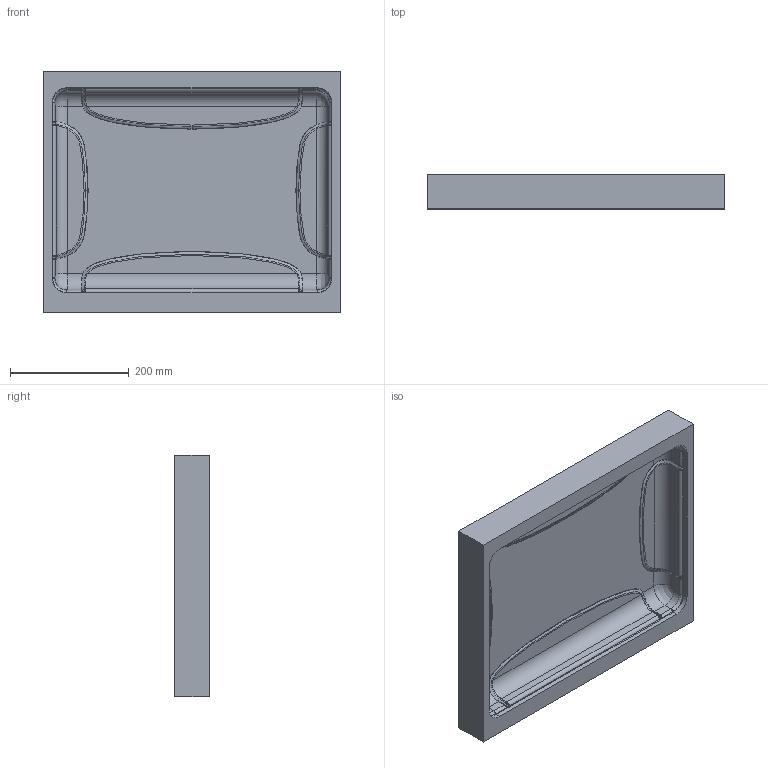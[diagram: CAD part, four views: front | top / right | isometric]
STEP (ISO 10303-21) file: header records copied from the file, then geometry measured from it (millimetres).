
FILE_DESCRIPTION (( 'STEP AP203' ), '1' );
FILE_NAME ('NANUK 930_TOP.STEP', '2011-08-30T13:41:23', ( '' ), ( '' ), 'SwSTEP 2.0', 'SolidWorks 2011', '' );
FILE_SCHEMA (( 'CONFIG_CONTROL_DESIGN' ));
Length unit declared in the file: inch
Products named in the file (1): NANUK 930_TOP
Bounding box: 499.62 x 57.84 x 405.8 mm (x, y, z)
Volume: 3856872 mm3; surface area: 570181.9 mm2
Topology: 1 solids, 1 shells, 227 faces, 521 edges, 296 vertices
Faces by surface type: bspline 140, cylinder 40, plane 27, torus 8, sphere 8, cone 4
Entity records: 23707 total; most frequent: CARTESIAN_POINT 19442, ORIENTED_EDGE 1040, DIRECTION 660, EDGE_CURVE 520, VERTEX_POINT 296, AXIS2_PLACEMENT_3D 284, EDGE_LOOP 228, FACE_OUTER_BOUND 227
